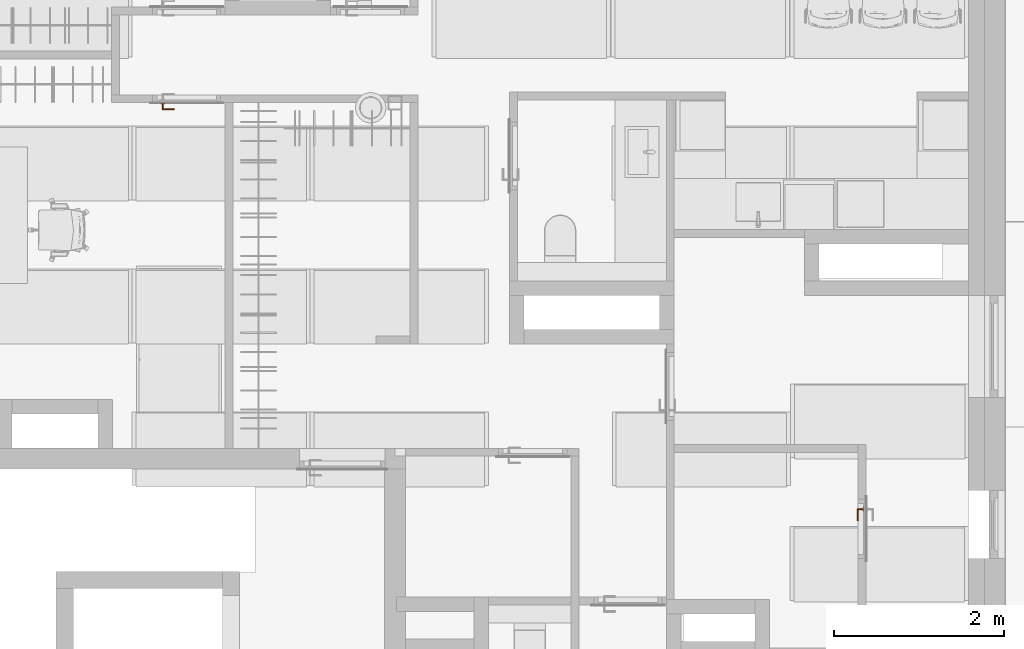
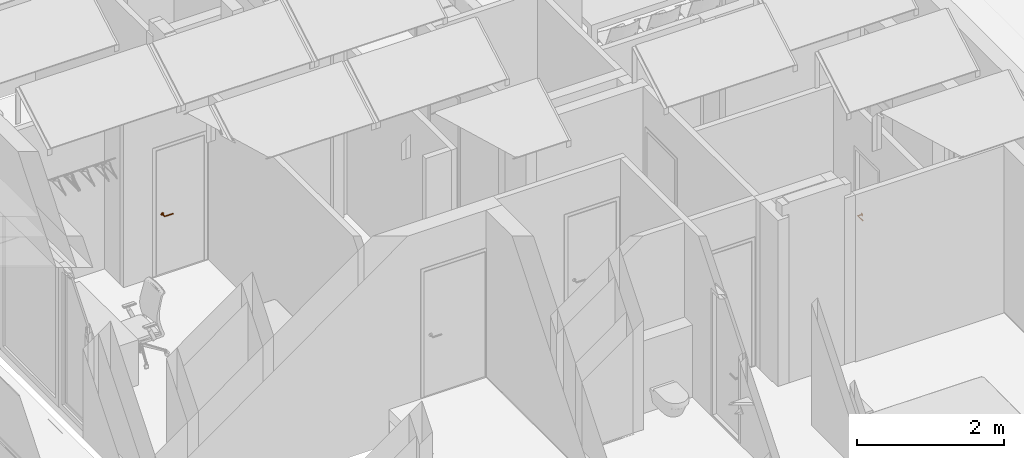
# One storey, part 51 of 57: 2 proxies.
"""IFC2X3 building model written with IfcOpenShell, lengths in millimetres."""

from ifc_helpers import new_model, entity, si_unit, converted_unit, direction, frame, origin, place, context, subcontext, project, spatial, faceted_brep, source, transform, mapped, material, type_object, type_shapes, element, save


model = new_model("IFC2X3")

# Units and contexts
model_context = context("Model", 3, precision=0.01, world=origin(), true_north=direction((6.123233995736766e-17, 1.0)))
plan_context = context("Plan", 3, precision=0.01, world=origin(), true_north=direction((6.123233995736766e-17, 1.0)))
body_context = subcontext(model_context, "Body", "Model", "MODEL_VIEW")
ifc_project = project(units=[si_unit("LENGTHUNIT", "METRE", prefix="MILLI"), converted_unit("PLANEANGLEUNIT", "DEGREE", entity("IfcPlaneAngleMeasure", 0.017453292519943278), si_unit("PLANEANGLEUNIT", "RADIAN"), dimensions=[0, 0, 0, 0, 0, 0, 0]), si_unit("AREAUNIT", "SQUARE_METRE")], contexts=[model_context, plan_context])

# Site, building, storey, space
site_placement = place(None, origin())
site = spatial("IfcSite", under=ifc_project, at=site_placement, Name="Default", CompositionType="ELEMENT")
building_placement = place(site_placement, origin())
building = spatial("IfcBuilding", under=site, at=building_placement, CompositionType="ELEMENT")
storey_placement = place(building_placement, frame((0.0, 0.0, 12811.000000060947)))
storey = spatial("IfcBuildingStorey", under=building, at=storey_placement, Name="5K", CompositionType="ELEMENT", Elevation=12811.000000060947)
space_placement = place(storey_placement, origin())
space = spatial("IfcSpace", under=storey, at=space_placement, Name="5-12.12", CompositionType="ELEMENT", InteriorOrExteriorSpace="INTERNAL")

# Proxies
ifc_material = material(Name="<Unnamed>")
building_element_proxy_type = type_object("IfcBuildingElementProxyType", Name="Door-handle_Lever_ABLOY_INOXI_3-19ss-002_RT:Default", PredefinedType="NOTDEFINED", material=ifc_material)
shared_shape = source(origin(), body_context, "Body", "Brep", [
    faceted_brep([(0.0, 0.0, 0.0), (8.034441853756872, 24.72746942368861, 0.0), (14.534441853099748, 20.00494299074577, 0.0), (21.034441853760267, 15.282416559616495, 0.0), (23.51722092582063, 7.641208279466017, 0.0), (26.0, 0.0, 0.0), (23.517220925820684, -7.641208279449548, 0.0), (0.0, 24.72746942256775, 0.0), (-8.034441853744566, 24.727469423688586, 0.0), (-14.534441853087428, 20.00494299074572, 0.0), (-21.03444185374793, 15.282416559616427, 0.0), (-23.517220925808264, 7.641208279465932, 0.0), (-26.0, 0.0, 0.0), (21.034441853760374, -15.282416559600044, 0.0), (14.534441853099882, -20.004942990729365, 0.0), (8.034441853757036, -24.72746942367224, 0.0), (0.0, -24.72746942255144, 0.0), (-23.517220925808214, -7.641208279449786, 0.0), (-21.034441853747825, -15.282416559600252, 0.0), (-14.53444185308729, -20.004942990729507, 0.0), (-8.0344418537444, -24.72746942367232, 0.0), (0.0, 0.0, 8.0), (9.500000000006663, 0.0, 8.0), (8.312500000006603, 2.056810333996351, 8.0), (7.125000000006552, 4.113620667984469, 8.0), (5.937500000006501, 6.170431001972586, 8.0), (4.7500000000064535, 8.227241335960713, 8.0), (2.375000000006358, 8.2272413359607, 8.0), (0.0, 8.227241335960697, 8.0), (-2.3749999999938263, 8.227241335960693, 8.0), (-4.749999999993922, 8.227241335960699, 8.0), (-5.937499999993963, 6.1704310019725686, 8.0), (-7.124999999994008, 4.1136206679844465, 8.0), (-8.312499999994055, 2.0568103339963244, 8.0), (-9.499999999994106, 0.0, 8.0), (-8.31249999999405, -2.0568103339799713, 8.0), (8.312500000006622, -2.0568103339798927, 8.0), (7.125000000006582, -4.113620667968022, 8.0), (5.937500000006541, -6.170431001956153, 8.0), (4.750000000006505, -8.227241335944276, 8.0), (-7.124999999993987, -4.113620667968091, 8.0), (-5.9374999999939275, -6.17043100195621, 8.0), (-4.74999999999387, -8.227241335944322, 8.0), (-2.374999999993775, -8.227241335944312, 8.0), (0.0, -8.227241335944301, 8.0), (2.3750000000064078, -8.227241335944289, 8.0), (-20.6430713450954, 6.292822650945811, 5.929480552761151), (-16.663919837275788, 7.932665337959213, 6.877259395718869), (-22.48876527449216, 10.806469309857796, 4.030771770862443), (-16.764060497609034, 3.8202578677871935, 7.1747985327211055), (-12.504579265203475, 5.179566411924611, 7.774932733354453), (-11.979136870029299, 13.678312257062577, 6.945778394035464), (-11.963426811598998, 8.62529041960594, 7.618343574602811), (-9.07172672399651, 10.31160661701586, 7.7520782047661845), (8.03444185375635, 24.727469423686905, 4.030771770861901), (0.0, 24.72746942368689, 4.030771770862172), (5.758554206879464, 20.96753300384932, 5.871476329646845), (20.643071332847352, 6.292822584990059, 5.929480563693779), (22.488765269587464, 10.806469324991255, 4.03077177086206), (16.66391982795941, 7.9326653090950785, 6.877259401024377), (9.49943163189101, 18.6436835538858, 6.154325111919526), (14.534441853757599, 20.004942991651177, 4.030771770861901), (-14.534441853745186, 20.00494299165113, 4.030771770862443), (-21.034441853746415, 15.282416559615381, 4.030771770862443), (-15.783149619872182, 11.991003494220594, 6.50080018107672), (-23.943088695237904, 6.330522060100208, 4.030771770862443), (-23.012042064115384, 0.0, 5.135401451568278), (12.50457924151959, 5.179566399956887, 7.774932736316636), (11.963426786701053, 8.625290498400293, 7.618343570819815), (16.76406041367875, 3.820257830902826, 7.17479855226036), (15.783149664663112, 11.991003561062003, 6.50080015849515), (23.01204200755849, 0.0, 5.135401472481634), (17.9853516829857, 0.0, 6.993737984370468), (8.661516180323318, 10.478936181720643, 7.768126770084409), (-3.3573143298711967, 21.197247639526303, 5.971427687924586), (-8.03444185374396, 24.727469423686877, 4.030771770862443), (-7.711266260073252, 12.76034452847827, 7.594456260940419), (-5.97325794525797, 16.43013906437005, 7.110979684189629), (-9.94191586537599, 17.061976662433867, 6.522757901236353), (11.979136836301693, 13.678312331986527, 6.945778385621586), (5.953298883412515, 16.50608604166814, 7.096344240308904), (7.511307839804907, 13.358932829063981, 7.529187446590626), (-1.5654593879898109, 15.307443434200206, 7.519134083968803), (-7.784980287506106, 20.476295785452, 5.812837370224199), (2.8135289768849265, 17.763922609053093, 6.993737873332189), (-17.985351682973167, 0.0, 6.993737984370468), (-26.0, 0.0, 4.030771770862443), (-23.51722092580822, 7.641208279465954, 4.030771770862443), (26.0, 0.0, 4.030771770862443), (24.308823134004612, 5.204907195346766, 4.030771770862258), (23.943088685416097, 6.330522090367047, 4.030771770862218), (21.03444185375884, 15.282416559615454, 4.030771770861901), (22.617646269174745, 10.40981439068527, 4.030771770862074), (20.6430713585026, -6.292822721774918, 5.929480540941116), (16.663919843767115, -7.932665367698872, 6.877259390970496), (22.48876527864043, -10.8064692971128, 4.030771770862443), (16.764060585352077, -3.8202579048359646, 7.174798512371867), (12.504579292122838, -5.17956641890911, 7.774932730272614), (11.979136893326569, -13.678312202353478, 6.9457784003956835), (11.963426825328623, -8.62529034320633, 7.618343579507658), (9.071726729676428, -10.311606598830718, 7.752078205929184), (-8.03444185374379, -24.727469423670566, 4.030771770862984), (0.0, -24.727469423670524, 4.030771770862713), (-5.758554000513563, -20.96753314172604, 5.8714763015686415), (-20.643071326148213, -6.292822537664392, 5.929480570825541), (-22.488765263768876, -10.80646934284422, 4.030771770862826), (-16.66391981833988, -7.932665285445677, 6.877259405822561), (-9.499431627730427, -18.643683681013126, 6.154325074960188), (-14.534441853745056, -20.004942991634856, 4.030771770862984), (14.53444185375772, -20.00494299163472, 4.030771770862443), (21.034441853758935, -15.282416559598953, 4.030771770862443), (15.783149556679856, -11.991003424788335, 6.5008002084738), (23.943088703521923, -6.330522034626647, 4.030771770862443), (-12.504579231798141, -5.17956638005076, 7.77493273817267), (-11.963426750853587, -8.625290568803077, 7.618343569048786), (-16.764060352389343, -3.8202577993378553, 7.174798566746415), (-15.783149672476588, -11.991003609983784, 6.500800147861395), (-8.661516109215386, -10.478936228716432, 7.768126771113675), (3.3573144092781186, -21.197247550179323, 5.971427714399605), (8.034441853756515, -24.727469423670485, 4.030771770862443), (7.711266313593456, -12.760344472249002, 7.5944562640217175), (5.9732581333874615, -16.430139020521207, 7.110979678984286), (9.941915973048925, -17.06197655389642, 6.522757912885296), (-11.979136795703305, -13.678312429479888, 6.945778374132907), (-5.953298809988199, -16.506086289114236, 7.096344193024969), (-7.511307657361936, -13.358932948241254, 7.5291874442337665), (1.5654596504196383, -15.3074431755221, 7.519134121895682), (7.784980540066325, -20.476295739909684, 5.812837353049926), (-2.81352881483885, -17.76392263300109, 6.993737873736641), (23.517220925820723, -7.64120827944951, 4.030771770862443), (-24.308823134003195, -5.20490719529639, 4.030771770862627), (-23.943088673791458, -6.330522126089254, 4.030771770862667), (-21.034441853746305, -15.282416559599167, 4.030771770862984), (-22.617646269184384, -10.409814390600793, 4.0307717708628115)], [[[0, 1, 2]], [[0, 2, 3]], [[0, 3, 4]], [[0, 4, 5]], [[0, 5, 6]], [[0, 7, 1]], [[0, 8, 7]], [[0, 9, 8]], [[0, 10, 9]], [[0, 11, 10]], [[0, 12, 11]], [[0, 6, 13]], [[0, 13, 14]], [[0, 14, 15]], [[0, 15, 16]], [[0, 17, 12]], [[0, 18, 17]], [[0, 19, 18]], [[0, 20, 19]], [[0, 16, 20]], [[21, 22, 23]], [[21, 23, 24]], [[21, 24, 25]], [[21, 25, 26]], [[21, 26, 27]], [[21, 27, 28]], [[21, 28, 29]], [[21, 29, 30]], [[21, 30, 31]], [[21, 31, 32]], [[21, 32, 33]], [[21, 33, 34]], [[21, 34, 35]], [[21, 36, 22]], [[21, 37, 36]], [[21, 38, 37]], [[21, 39, 38]], [[21, 35, 40]], [[21, 40, 41]], [[21, 41, 42]], [[21, 42, 43]], [[21, 43, 44]], [[21, 44, 45]], [[21, 45, 39]], [[46, 47, 48]], [[49, 50, 47]], [[33, 32, 50]], [[51, 52, 53]], [[32, 52, 50]], [[49, 47, 46]], [[54, 55, 56]], [[57, 58, 59]], [[60, 61, 54]], [[62, 63, 64]], [[46, 65, 66]], [[67, 59, 68]], [[23, 69, 67]], [[70, 68, 59]], [[23, 22, 69]], [[52, 51, 64]], [[71, 69, 72]], [[73, 25, 68]], [[74, 55, 75]], [[76, 77, 78]], [[70, 61, 79]], [[71, 57, 69]], [[60, 80, 81]], [[51, 76, 78]], [[77, 29, 82]], [[26, 81, 27]], [[74, 83, 77]], [[77, 82, 74]], [[74, 84, 55]], [[34, 49, 85]], [[23, 67, 24]], [[28, 84, 82]], [[74, 82, 84]], [[29, 76, 30]], [[29, 28, 82]], [[49, 34, 33]], [[47, 50, 52]], [[47, 52, 64]], [[50, 49, 33]], [[53, 76, 51]], [[52, 32, 31]], [[49, 66, 85]], [[86, 66, 65]], [[24, 67, 68]], [[83, 78, 77]], [[49, 46, 66]], [[48, 64, 63]], [[46, 48, 87, 65]], [[48, 47, 64]], [[59, 67, 69]], [[26, 73, 81]], [[79, 68, 70]], [[25, 24, 68]], [[71, 88, 89, 90]], [[22, 72, 69]], [[59, 69, 57]], [[79, 61, 60]], [[51, 62, 64]], [[70, 58, 91]], [[90, 57, 71]], [[58, 70, 59]], [[57, 90, 92]], [[79, 60, 81]], [[61, 70, 91]], [[56, 80, 60]], [[79, 81, 73]], [[80, 84, 27]], [[79, 73, 68]], [[27, 84, 28]], [[25, 73, 26]], [[77, 76, 29]], [[31, 30, 53]], [[78, 62, 51]], [[75, 62, 83]], [[78, 83, 62]], [[75, 83, 74]], [[76, 53, 30]], [[31, 53, 52]], [[81, 80, 27]], [[84, 80, 56]], [[84, 56, 55]], [[54, 56, 60]], [[93, 94, 95]], [[96, 97, 94]], [[36, 37, 97]], [[98, 99, 100]], [[37, 99, 97]], [[96, 94, 93]], [[101, 102, 103]], [[104, 105, 106]], [[107, 108, 101]], [[109, 110, 111]], [[93, 112, 71]], [[113, 106, 114]], [[35, 115, 113]], [[116, 114, 106]], [[35, 34, 115]], [[99, 98, 111]], [[66, 115, 85]], [[117, 41, 114]], [[118, 102, 119]], [[120, 121, 122]], [[116, 108, 123]], [[66, 104, 115]], [[107, 124, 125]], [[120, 45, 121]], [[121, 45, 126]], [[42, 125, 43]], [[118, 127, 121]], [[121, 126, 118]], [[118, 128, 102]], [[22, 96, 72]], [[35, 113, 40]], [[44, 128, 126]], [[118, 126, 128]], [[45, 120, 39]], [[45, 44, 126]], [[96, 22, 36]], [[94, 97, 99]], [[94, 99, 111]], [[97, 96, 36]], [[100, 120, 98]], [[99, 37, 38]], [[96, 71, 72]], [[88, 71, 112]], [[40, 113, 114]], [[127, 122, 121]], [[96, 93, 71]], [[95, 111, 110]], [[93, 95, 129, 112]], [[95, 94, 111]], [[106, 113, 115]], [[42, 117, 125]], [[123, 114, 116]], [[41, 40, 114]], [[66, 86, 130, 131]], [[34, 85, 115]], [[106, 115, 104]], [[123, 108, 107]], [[98, 109, 111]], [[116, 105, 132]], [[131, 104, 66]], [[105, 116, 106]], [[104, 131, 133]], [[123, 107, 125]], [[108, 116, 132]], [[103, 124, 107]], [[123, 125, 117]], [[124, 128, 43]], [[123, 117, 114]], [[43, 128, 44]], [[41, 117, 42]], [[38, 39, 100]], [[98, 120, 122]], [[122, 109, 98]], [[119, 109, 127]], [[122, 127, 109]], [[119, 127, 118]], [[120, 100, 39]], [[38, 100, 99]], [[125, 124, 43]], [[128, 124, 103]], [[128, 103, 102]], [[101, 103, 107]], [[9, 10, 63, 62, 75, 8]], [[11, 12, 86, 65, 87, 48, 63, 10]], [[4, 3, 92, 90, 89, 88, 5]], [[3, 91, 58]], [[55, 54, 1, 7, 8, 75]], [[3, 2, 1, 54, 61, 91]], [[13, 6, 5, 88, 112, 129, 95, 110]], [[119, 15, 14, 13, 110, 109]], [[17, 18, 133, 131, 130, 86, 12]], [[18, 132, 105]], [[102, 101, 20, 16, 15, 119]], [[18, 19, 20, 101, 108, 132]], [[57, 92, 58]], [[104, 133, 105]], [[3, 58, 92]], [[18, 105, 133]]]),
    faceted_brep([(0.0, 9.499999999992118, 8.0), (2.4587809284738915, 9.176295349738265, 8.0), (4.7499999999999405, 8.22724133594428, 8.0), (6.717514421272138, 6.7175144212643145, 8.0), (8.227241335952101, 4.749999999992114, 8.0), (9.17629534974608, 2.458780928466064, 8.0), (9.499999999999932, 0.0, 8.0), (9.17629534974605, -2.458780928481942, 8.0), (8.22724133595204, -4.75000000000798, 8.0), (6.717514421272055, -6.717514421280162, 8.0), (4.7499999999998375, -8.227241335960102, 8.0), (2.4587809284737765, -9.176295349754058, 8.0), (0.0, -9.500000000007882, 8.0), (-2.4587809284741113, -9.176295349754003, 8.0), (-4.750000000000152, -8.227241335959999, 8.0), (-6.717514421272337, -6.717514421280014, 8.0), (-8.227241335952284, -4.750000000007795, 8.0), (-9.176295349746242, -2.458780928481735, 8.0), (-9.500000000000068, 0.0, 8.0), (-9.176295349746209, 2.4587809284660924, 8.0), (-8.227241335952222, 4.74999999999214, 8.0), (-6.717514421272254, 6.717514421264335, 8.0), (-4.7500000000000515, 8.227241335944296, 8.0), (-2.4587809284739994, 9.176295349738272, 8.0), (-6.717514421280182, -6.7175144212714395, 61.282485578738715), (-8.227241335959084, -4.7499999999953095, 59.772758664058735), (-9.176295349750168, -2.458780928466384, 58.82370465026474), (-2.4587809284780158, -9.176295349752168, 65.54121907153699), (-4.750000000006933, -8.227241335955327, 63.25000000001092), (-9.500000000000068, 0.0, 58.50000000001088), (0.0, -9.50000000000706, 68.0), (2.4587809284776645, -9.17629534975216, 70.45878092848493), (4.750000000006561, -8.227241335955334, 72.75000000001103), (6.717514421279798, -6.7175144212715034, 74.71751442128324), (9.17629534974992, -2.458780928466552, 77.17629534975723), (8.22724133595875, -4.749999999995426, 76.22724133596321), (9.499999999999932, 0.0, 77.50000000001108), (9.176295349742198, 2.4587809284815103, 77.1762953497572), (8.227241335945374, 4.750000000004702, 76.22724133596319), (4.749999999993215, 8.227241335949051, 72.75000000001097), (6.7175144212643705, 6.717514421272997, 74.7175144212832), (2.4587809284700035, 9.17629534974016, 70.45878092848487), (-2.4587809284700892, 9.176295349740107, 65.54121907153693), (0.0, 9.49999999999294, 68.0), (-6.717514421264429, 6.717514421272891, 61.282485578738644), (-4.749999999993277, 8.227241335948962, 63.250000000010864), (-9.176295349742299, 2.458780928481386, 58.8237046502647), (-8.227241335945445, 4.750000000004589, 59.77275866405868), (-135.0, 9.500000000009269, 68.0), (-135.0, 9.176295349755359, 65.54121907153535), (-135.0, 8.227241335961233, 63.25000000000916), (-135.0, 6.7175144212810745, 61.28248557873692), (-135.0, 4.750000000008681, 59.772758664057), (-135.0, 2.458780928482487, 58.82370465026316), (-135.0, 0.0, 58.50000000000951), (-135.0, -2.458780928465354, 58.823704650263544), (-135.0, -4.749999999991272, 59.772758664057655), (-135.0, -6.717514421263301, 61.28248557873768), (-135.0, -8.227241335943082, 63.250000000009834), (-135.0, -9.17629534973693, 65.54121907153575), (-135.0, -9.499999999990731, 68.0), (-135.0, -9.17629534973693, 70.45878092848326), (-135.0, -8.227241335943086, 72.75000000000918), (-135.0, -6.717514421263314, 74.71751442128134), (-135.0, -4.749999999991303, 76.22724133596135), (-135.0, -2.4587809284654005, 77.17629534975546), (-135.0, 0.0, 77.5000000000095), (-135.0, 2.4587809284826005, 77.17629534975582), (-135.0, 4.750000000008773, 76.22724133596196), (-135.0, 6.717514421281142, 74.71751442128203), (-135.0, 8.227241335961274, 72.75000000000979), (-135.0, 9.176295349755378, 70.4587809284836)], [[[0, 1, 2, 3, 4, 5, 6, 7, 8, 9, 10, 11, 12, 13, 14, 15, 16, 17, 18, 19, 20, 21, 22, 23]], [[15, 24, 25, 16]], [[16, 25, 26, 17]], [[27, 28, 12]], [[12, 28, 13]], [[13, 28, 24]], [[18, 17, 26, 29]], [[24, 15, 14]], [[14, 13, 24]], [[11, 30, 27]], [[31, 9, 32]], [[32, 8, 33]], [[34, 35, 7]], [[7, 35, 33]], [[36, 34, 7, 6]], [[30, 11, 10]], [[11, 27, 12]], [[33, 8, 7]], [[8, 32, 9]], [[31, 10, 9]], [[10, 31, 30]], [[37, 36, 6, 5]], [[37, 5, 38]], [[39, 40, 4]], [[5, 40, 38]], [[41, 39, 3]], [[5, 4, 40]], [[42, 43, 1]], [[2, 1, 43]], [[2, 41, 3]], [[39, 4, 3]], [[2, 43, 41]], [[23, 44, 45]], [[0, 45, 42]], [[19, 18, 29, 46]], [[20, 19, 46, 47]], [[21, 20, 47, 44]], [[23, 22, 44]], [[45, 0, 23]], [[44, 22, 21]], [[1, 0, 42]], [[48, 49, 50, 51, 52, 53, 54, 55, 56, 57, 58, 59, 60, 61, 62, 63, 64, 65, 66, 67, 68, 69, 70, 71]], [[26, 25, 56, 55]], [[29, 26, 55, 54]], [[28, 27, 59, 58]], [[24, 28, 58, 57]], [[25, 24, 57, 56]], [[27, 30, 60, 59]], [[32, 33, 63, 62]], [[31, 32, 62, 61]], [[34, 36, 66, 65]], [[35, 34, 65, 64]], [[33, 35, 64, 63]], [[61, 60, 30, 31]], [[38, 68, 67, 37]], [[37, 67, 66, 36]], [[41, 71, 70, 39]], [[39, 70, 69, 40]], [[40, 69, 68, 38]], [[48, 71, 41, 43]], [[44, 51, 50, 45]], [[45, 50, 49, 42]], [[29, 54, 53, 46]], [[46, 53, 52, 47]], [[47, 52, 51, 44]], [[42, 49, 48, 43]]]),
])
type_shapes(building_element_proxy_type, [shared_shape])
proxy_1_placement = place(space_placement, frame((2450.0, 10691.0, 1000.0), z_axis=(0.0, -1.0, 0.0), x_axis=(-1.0, 0.0, 0.0)))
element("IfcBuildingElementProxy", 1, at=proxy_1_placement, inside=space, type_object=building_element_proxy_type, material=ifc_material, Name="Door-handle_Lever_ABLOY_INOXI_3-19ss-002_RT:Default", ObjectType="Door-handle_Lever_ABLOY_INOXI_3-19ss-002_RT:Default", context=body_context, shape_type="MappedRepresentation", body=[
    mapped(shared_shape, transform((0.0, 0.0, 0.0), scale=1.0)),
])
proxy_2_placement = place(storey_placement, frame((10670.0, 5930.0, 1000.0), z_axis=(-1.0, 0.0, 0.0), x_axis=(0.0, 1.0, 0.0)))
element("IfcBuildingElementProxy", 2, at=proxy_2_placement, inside=storey, type_object=building_element_proxy_type, material=ifc_material, Name="Door-handle_Lever_ABLOY_INOXI_3-19ss-002_RT:Default", ObjectType="Door-handle_Lever_ABLOY_INOXI_3-19ss-002_RT:Default", context=body_context, shape_type="MappedRepresentation", body=[
    mapped(shared_shape, transform((0.0, 0.0, 0.0), scale=1.0)),
])

save(model, "model.ifc")
